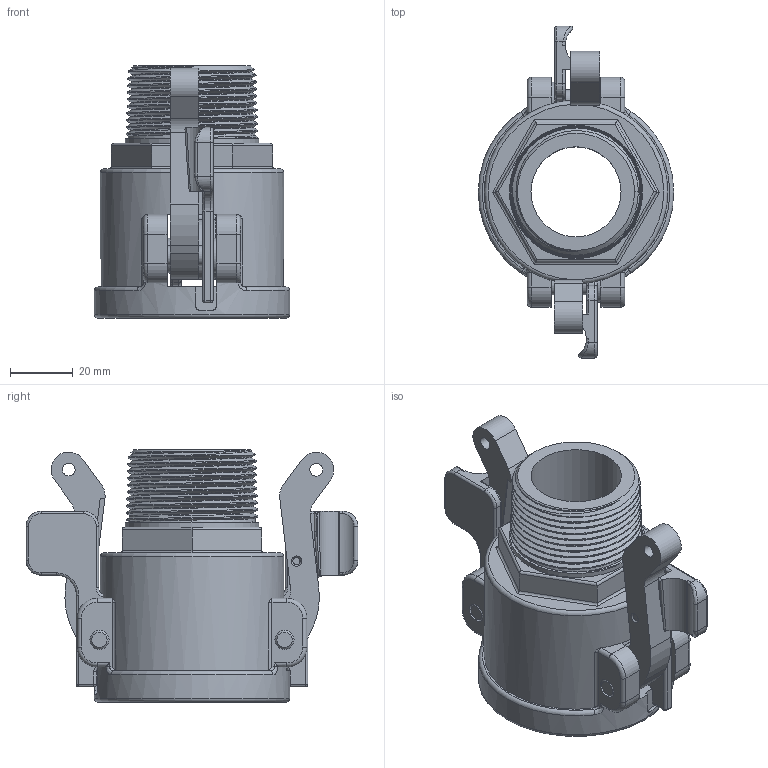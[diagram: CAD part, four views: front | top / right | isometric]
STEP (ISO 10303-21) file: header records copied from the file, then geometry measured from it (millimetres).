
FILE_DESCRIPTION(/* description */ ('Alibre Inc.'),/* implementation_level */ '2;1');
FILE_NAME(/* name */ 'export0',/* time_stamp */ '2016-02-22T11:43:02-05:00',/* author */ (''),/* organization */ (''),/* preprocessor_version */ 'ST-DEVELOPER v14',/* originating_system */ 'Alibre',/* authorisation */ '');
FILE_SCHEMA (('CONFIG_CONTROL_DESIGN'));
Length unit declared in the file: centimetre
Products named in the file (6): ID_2; ID_1; ID_3; ID_4
Bounding box: 62.23 x 105.66 x 80.26 mm (x, y, z)
Volume: 107513.1 mm3; surface area: 47726.5 mm2
Topology: 8 solids, 8 shells, 380 faces, 936 edges, 567 vertices
Faces by surface type: cylinder 154, plane 123, torus 40, cone 32, sphere 16, bspline 15
Full cylindrical faces by diameter (mm): 4.064 x2, 6.096 x4, 6.35 x4, 6.604 x4, 11.125 x2, 28.702 x1, 34.036 x1, 42.469 x1, 45.974 x1, 49.53 x1, 50.8 x1, 58.42 x1, 62.23 x1
Entity records: 34299 total; most frequent: CARTESIAN_POINT 27568, ORIENTED_EDGE 1282, DIRECTION 1166, EDGE_CURVE 641, AXIS2_PLACEMENT_3D 497, VERTEX_POINT 408, EDGE_LOOP 319, FACE_BOUND 319
